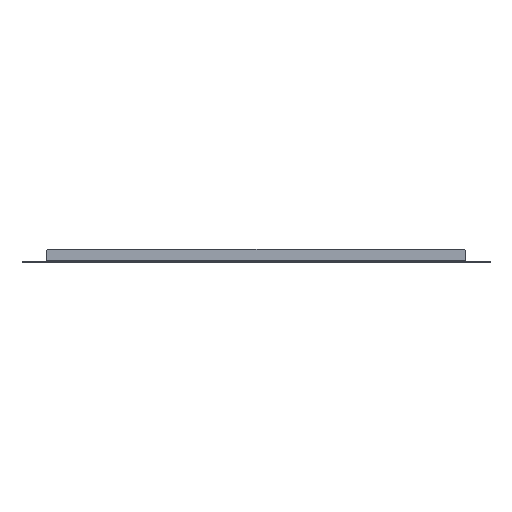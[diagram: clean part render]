
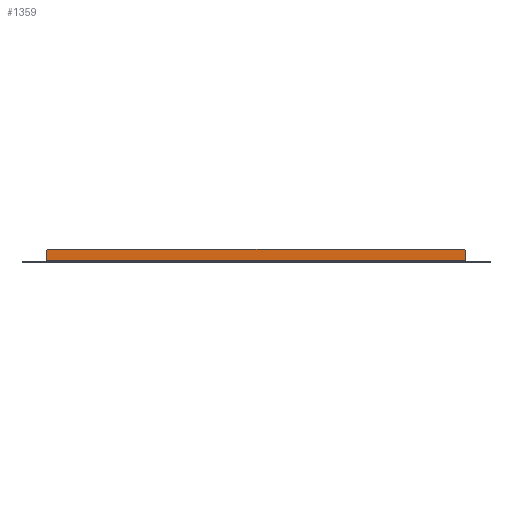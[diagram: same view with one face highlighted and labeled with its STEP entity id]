
A CAD part, front view. The second image highlights one B-rep face of the part: STEP entity #1359.
In plain terms, the highlighted planar face has unit normal (0, -1, 0).
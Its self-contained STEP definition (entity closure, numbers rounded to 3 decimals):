
#40 = AXIS2_PLACEMENT_3D ( 'NONE', #1903, #1887, #1878 ) ;
#71 = LINE ( 'NONE', #1150, #742 ) ;
#160 = EDGE_CURVE ( 'NONE', #2828, #2267, #2871, .T. ) ;
#236 = CARTESIAN_POINT ( 'NONE',  ( -305., -1017.5, 3. ) ) ;
#407 = CARTESIAN_POINT ( 'NONE',  ( -305., -1017.5, 15. ) ) ;
#468 = CARTESIAN_POINT ( 'NONE',  ( -300., -1017.5, 20. ) ) ;
#503 = CARTESIAN_POINT ( 'NONE',  ( 300., -1017.5, 20. ) ) ;
#547 = VERTEX_POINT ( 'NONE', #236 ) ;
#551 = ORIENTED_EDGE ( 'NONE', *, *, #1592, .F. ) ;
#629 = AXIS2_PLACEMENT_3D ( 'NONE', #2201, #682, #2436 ) ;
#655 = ORIENTED_EDGE ( 'NONE', *, *, #2137, .T. ) ;
#682 = DIRECTION ( 'NONE',  ( 0., 1., 0. ) ) ;
#713 = DIRECTION ( 'NONE',  ( -1., 0., 0. ) ) ;
#718 = CARTESIAN_POINT ( 'NONE',  ( 322.678, -1017.5, 20. ) ) ;
#742 = VECTOR ( 'NONE', #1120, 1000. ) ;
#926 = DIRECTION ( 'NONE',  ( 0., 0., 1. ) ) ;
#932 = CARTESIAN_POINT ( 'NONE',  ( 305., -1017.5, 15. ) ) ;
#937 = DIRECTION ( 'NONE',  ( 0., -1., 0. ) ) ;
#946 = CARTESIAN_POINT ( 'NONE',  ( 300., -1017.5, 15. ) ) ;
#1049 = ORIENTED_EDGE ( 'NONE', *, *, #2628, .T. ) ;
#1120 = DIRECTION ( 'NONE',  ( 0., 0., -1. ) ) ;
#1133 = VERTEX_POINT ( 'NONE', #1327 ) ;
#1150 = CARTESIAN_POINT ( 'NONE',  ( -305., -1017.5, 2.5 ) ) ;
#1247 = EDGE_CURVE ( 'NONE', #2796, #2828, #1979, .T. ) ;
#1309 = CIRCLE ( 'NONE', #2554, 5. ) ;
#1314 = VECTOR ( 'NONE', #713, 1000. ) ;
#1327 = CARTESIAN_POINT ( 'NONE',  ( 305., -1017.5, 3. ) ) ;
#1330 = VERTEX_POINT ( 'NONE', #932 ) ;
#1359 = ADVANCED_FACE ( 'NONE', ( #1674 ), #1450, .F. ) ;
#1450 = PLANE ( 'NONE',  #629 ) ;
#1504 = CARTESIAN_POINT ( 'NONE',  ( 305., -1017.5, 3. ) ) ;
#1592 = EDGE_CURVE ( 'NONE', #1330, #1133, #1619, .T. ) ;
#1619 = LINE ( 'NONE', #2930, #2814 ) ;
#1630 = DIRECTION ( 'NONE',  ( 1., 0., 0. ) ) ;
#1660 = VECTOR ( 'NONE', #1630, 1000. ) ;
#1674 = FACE_OUTER_BOUND ( 'NONE', #2938, .T. ) ;
#1741 = LINE ( 'NONE', #1504, #1660 ) ;
#1864 = EDGE_CURVE ( 'NONE', #2267, #547, #71, .T. ) ;
#1878 = DIRECTION ( 'NONE',  ( 0., 0., 1. ) ) ;
#1887 = DIRECTION ( 'NONE',  ( 0., -1., 0. ) ) ;
#1903 = CARTESIAN_POINT ( 'NONE',  ( -300., -1017.5, 15. ) ) ;
#1979 = LINE ( 'NONE', #718, #1314 ) ;
#2137 = EDGE_CURVE ( 'NONE', #1330, #2796, #1309, .T. ) ;
#2201 = CARTESIAN_POINT ( 'NONE',  ( -305., -1017.5, 2.5 ) ) ;
#2240 = ORIENTED_EDGE ( 'NONE', *, *, #160, .T. ) ;
#2267 = VERTEX_POINT ( 'NONE', #407 ) ;
#2436 = DIRECTION ( 'NONE',  ( 0., 0., 1. ) ) ;
#2554 = AXIS2_PLACEMENT_3D ( 'NONE', #946, #937, #926 ) ;
#2628 = EDGE_CURVE ( 'NONE', #547, #1133, #1741, .T. ) ;
#2634 = ORIENTED_EDGE ( 'NONE', *, *, #1864, .T. ) ;
#2796 = VERTEX_POINT ( 'NONE', #503 ) ;
#2814 = VECTOR ( 'NONE', #2924, 1000. ) ;
#2828 = VERTEX_POINT ( 'NONE', #468 ) ;
#2871 = CIRCLE ( 'NONE', #40, 5. ) ;
#2924 = DIRECTION ( 'NONE',  ( 0., 0., -1. ) ) ;
#2930 = CARTESIAN_POINT ( 'NONE',  ( 305., -1017.5, 2.5 ) ) ;
#2938 = EDGE_LOOP ( 'NONE', ( #2634, #1049, #551, #655, #3053, #2240 ) ) ;
#3053 = ORIENTED_EDGE ( 'NONE', *, *, #1247, .T. ) ;
